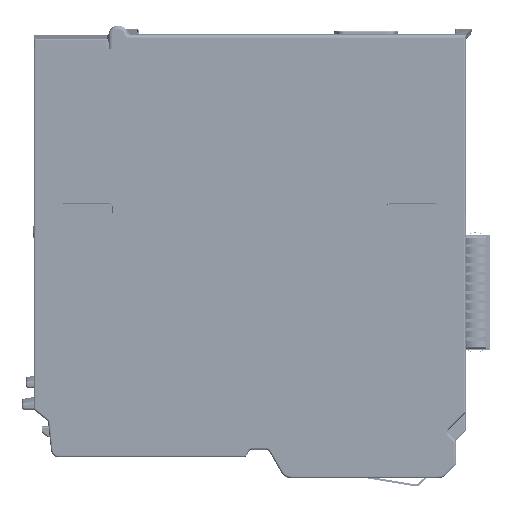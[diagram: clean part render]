
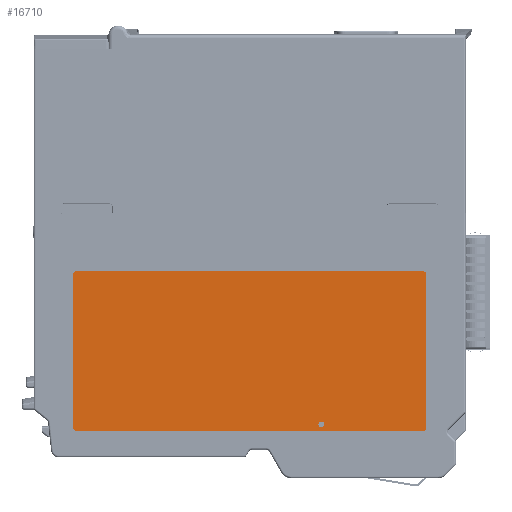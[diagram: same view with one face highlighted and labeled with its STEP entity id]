
A CAD part, left-side view. The second image highlights one B-rep face of the part: STEP entity #16710.
In plain terms, the highlighted planar face has unit normal (-1, 0, 0).
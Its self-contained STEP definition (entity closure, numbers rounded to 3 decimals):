
#2306 = DIRECTION ( 'NONE',  ( 1., 0., 0. ) ) ;
#4702 = CARTESIAN_POINT ( 'NONE',  ( 0.4, 99., -50.8 ) ) ;
#6192 = EDGE_LOOP ( 'NONE', ( #65342, #31573, #61864, #64396, #71981, #86927, #54388, #193708 ) ) ;
#8197 = DIRECTION ( 'NONE',  ( 0., -1., 0. ) ) ;
#8287 = VERTEX_POINT ( 'NONE', #24828 ) ;
#10266 = AXIS2_PLACEMENT_3D ( 'NONE', #215730, #212524, #49833 ) ;
#11364 = FACE_BOUND ( 'NONE', #209131, .T. ) ;
#12799 = VERTEX_POINT ( 'NONE', #46086 ) ;
#14781 = DIRECTION ( 'NONE',  ( -1., 0., 0. ) ) ;
#14903 = DIRECTION ( 'NONE',  ( -1., 0., 0. ) ) ;
#16710 = ADVANCED_FACE ( 'NONE', ( #11364, #195894 ), #125977, .T. ) ;
#20027 = CARTESIAN_POINT ( 'NONE',  ( 0.4, 99., -10. ) ) ;
#21091 = LINE ( 'NONE', #4702, #38584 ) ;
#21256 = CARTESIAN_POINT ( 'NONE',  ( 0.4, 10., -49.8 ) ) ;
#24308 = CIRCLE ( 'NONE', #34768, 1. ) ;
#24828 = CARTESIAN_POINT ( 'NONE',  ( 0.4, 99., -50.8 ) ) ;
#30213 = CARTESIAN_POINT ( 'NONE',  ( 0.4, 11., -50.8 ) ) ;
#31573 = ORIENTED_EDGE ( 'NONE', *, *, #63448, .F. ) ;
#33532 = ORIENTED_EDGE ( 'NONE', *, *, #67461, .F. ) ;
#34003 = ORIENTED_EDGE ( 'NONE', *, *, #35645, .F. ) ;
#34768 = AXIS2_PLACEMENT_3D ( 'NONE', #110160, #125480, #192164 ) ;
#35645 = EDGE_CURVE ( 'NONE', #43429, #155775, #121083, .T. ) ;
#37761 = LINE ( 'NONE', #122807, #113561 ) ;
#38584 = VECTOR ( 'NONE', #105080, 1000. ) ;
#43429 = VERTEX_POINT ( 'NONE', #96349 ) ;
#46086 = CARTESIAN_POINT ( 'NONE',  ( 0.4, 100., -49.8 ) ) ;
#46299 = CARTESIAN_POINT ( 'NONE',  ( 0.4, 99., -49.8 ) ) ;
#46616 = CARTESIAN_POINT ( 'NONE',  ( 0.4, 36.75, -49.093 ) ) ;
#47440 = VERTEX_POINT ( 'NONE', #20027 ) ;
#49399 = EDGE_CURVE ( 'NONE', #12799, #91681, #155646, .T. ) ;
#49833 = DIRECTION ( 'NONE',  ( 0., 0., 1. ) ) ;
#54388 = ORIENTED_EDGE ( 'NONE', *, *, #135536, .F. ) ;
#55265 = CARTESIAN_POINT ( 'NONE',  ( 0.4, 100., -49.8 ) ) ;
#60534 = CIRCLE ( 'NONE', #140550, 0.75 ) ;
#61864 = ORIENTED_EDGE ( 'NONE', *, *, #80316, .F. ) ;
#62265 = VECTOR ( 'NONE', #126074, 1000. ) ;
#63030 = DIRECTION ( 'NONE',  ( 0., 0., 1. ) ) ;
#63448 = EDGE_CURVE ( 'NONE', #116665, #8287, #21091, .T. ) ;
#64396 = ORIENTED_EDGE ( 'NONE', *, *, #147059, .F. ) ;
#65342 = ORIENTED_EDGE ( 'NONE', *, *, #143205, .F. ) ;
#65726 = CARTESIAN_POINT ( 'NONE',  ( 0.4, 11., -49.8 ) ) ;
#65998 = CARTESIAN_POINT ( 'NONE',  ( 0.4, 100., -11. ) ) ;
#67461 = EDGE_CURVE ( 'NONE', #155775, #43429, #60534, .T. ) ;
#67652 = CARTESIAN_POINT ( 'NONE',  ( 0.4, 99., -11. ) ) ;
#71981 = ORIENTED_EDGE ( 'NONE', *, *, #177092, .F. ) ;
#77479 = VECTOR ( 'NONE', #167649, 1000. ) ;
#78830 = CARTESIAN_POINT ( 'NONE',  ( 0.4, 11., -10. ) ) ;
#79788 = CARTESIAN_POINT ( 'NONE',  ( 0.4, 10., -11. ) ) ;
#80299 = CARTESIAN_POINT ( 'NONE',  ( 0.4, 36.75, -49.093 ) ) ;
#80316 = EDGE_CURVE ( 'NONE', #186325, #116665, #98543, .T. ) ;
#81887 = CARTESIAN_POINT ( 'NONE',  ( 0.4, 36.75, -49.843 ) ) ;
#82143 = CIRCLE ( 'NONE', #134486, 1. ) ;
#86927 = ORIENTED_EDGE ( 'NONE', *, *, #173599, .F. ) ;
#91681 = VERTEX_POINT ( 'NONE', #65998 ) ;
#96349 = CARTESIAN_POINT ( 'NONE',  ( 0.4, 36.75, -48.343 ) ) ;
#98543 = CIRCLE ( 'NONE', #108956, 1. ) ;
#98804 = DIRECTION ( 'NONE',  ( 0., 0., 1. ) ) ;
#103117 = LINE ( 'NONE', #21256, #77479 ) ;
#105080 = DIRECTION ( 'NONE',  ( 0., 1., 0. ) ) ;
#108956 = AXIS2_PLACEMENT_3D ( 'NONE', #65726, #2306, #166149 ) ;
#110160 = CARTESIAN_POINT ( 'NONE',  ( 0.4, 99., -49.8 ) ) ;
#112831 = DIRECTION ( 'NONE',  ( -1., 0., 0. ) ) ;
#113561 = VECTOR ( 'NONE', #8197, 1000. ) ;
#116665 = VERTEX_POINT ( 'NONE', #30213 ) ;
#121083 = CIRCLE ( 'NONE', #176960, 0.75 ) ;
#122807 = CARTESIAN_POINT ( 'NONE',  ( 0.4, 99., -10. ) ) ;
#125480 = DIRECTION ( 'NONE',  ( 1., 0., 0. ) ) ;
#125977 = PLANE ( 'NONE',  #141761 ) ;
#126074 = DIRECTION ( 'NONE',  ( 0., 0., 1. ) ) ;
#133396 = CARTESIAN_POINT ( 'NONE',  ( 0.4, 10., -49.8 ) ) ;
#134486 = AXIS2_PLACEMENT_3D ( 'NONE', #67652, #200877, #152766 ) ;
#135536 = EDGE_CURVE ( 'NONE', #91681, #47440, #82143, .T. ) ;
#136853 = VERTEX_POINT ( 'NONE', #79788 ) ;
#140550 = AXIS2_PLACEMENT_3D ( 'NONE', #46616, #14903, #63030 ) ;
#141761 = AXIS2_PLACEMENT_3D ( 'NONE', #46299, #112831, #179507 ) ;
#143205 = EDGE_CURVE ( 'NONE', #8287, #12799, #24308, .T. ) ;
#147059 = EDGE_CURVE ( 'NONE', #136853, #186325, #103117, .T. ) ;
#152766 = DIRECTION ( 'NONE',  ( 0., 0., -1. ) ) ;
#154928 = VERTEX_POINT ( 'NONE', #78830 ) ;
#155646 = LINE ( 'NONE', #55265, #62265 ) ;
#155775 = VERTEX_POINT ( 'NONE', #81887 ) ;
#166149 = DIRECTION ( 'NONE',  ( 0., 0., 1. ) ) ;
#167649 = DIRECTION ( 'NONE',  ( 0., 0., -1. ) ) ;
#170641 = CIRCLE ( 'NONE', #10266, 1. ) ;
#173599 = EDGE_CURVE ( 'NONE', #47440, #154928, #37761, .T. ) ;
#176960 = AXIS2_PLACEMENT_3D ( 'NONE', #80299, #14781, #98804 ) ;
#177092 = EDGE_CURVE ( 'NONE', #154928, #136853, #170641, .T. ) ;
#179507 = DIRECTION ( 'NONE',  ( 0., 0., 1. ) ) ;
#186325 = VERTEX_POINT ( 'NONE', #133396 ) ;
#192164 = DIRECTION ( 'NONE',  ( 0., 0., 1. ) ) ;
#193708 = ORIENTED_EDGE ( 'NONE', *, *, #49399, .F. ) ;
#195894 = FACE_OUTER_BOUND ( 'NONE', #6192, .T. ) ;
#200877 = DIRECTION ( 'NONE',  ( 1., 0., 0. ) ) ;
#209131 = EDGE_LOOP ( 'NONE', ( #34003, #33532 ) ) ;
#212524 = DIRECTION ( 'NONE',  ( 1., 0., 0. ) ) ;
#215730 = CARTESIAN_POINT ( 'NONE',  ( 0.4, 11., -11. ) ) ;
